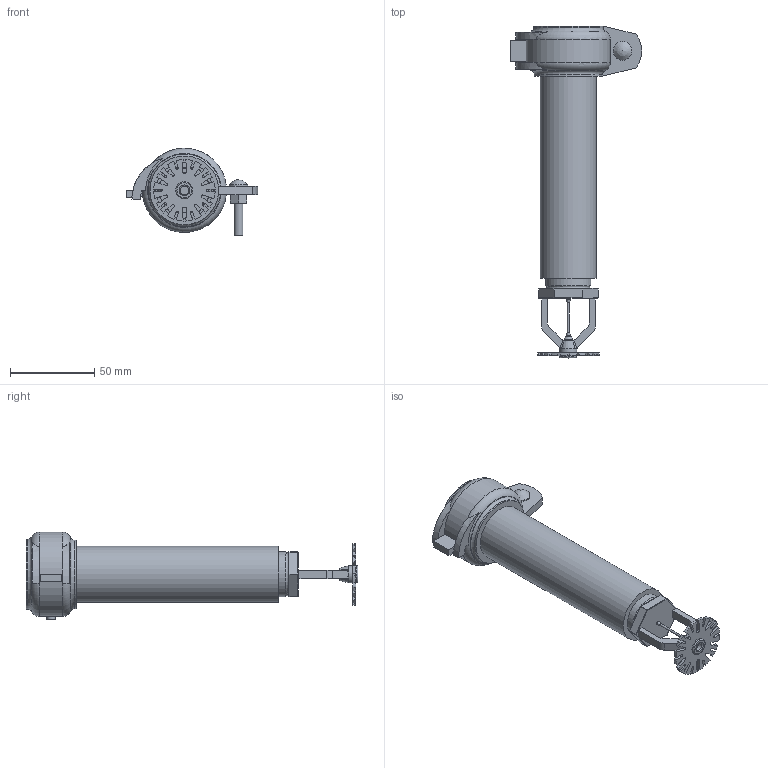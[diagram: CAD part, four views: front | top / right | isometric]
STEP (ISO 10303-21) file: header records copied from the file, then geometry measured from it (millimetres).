
FILE_DESCRIPTION(/* description */ ('VIC SPRINKLER V3613 K5.6 DRY PENDENT STANDARD RESPONSE w/V9 (IGS)'),/* implementation_level */ '2;1');
FILE_NAME(/* name */ 'C:\Users\Public\Documents\Victaulic.Temp\A161\Victaulic_FP-Sprinkler_V3613_DRY_SR_Pendent_V9 (IGS)_PLN_1 (25).stp',/* time_stamp */ '2024-09-24T08:10:33+02:00',/* author */ ('kkamble'),/* organization */ ('Victaulic'),/* preprocessor_version */ 'ST-DEVELOPER v18',/* originating_system */ 'Autodesk Inventor 2020',/* authorisation */ '');
FILE_SCHEMA (('AUTOMOTIVE_DESIGN { 1 0 10303 214 3 1 1 }'));
Length unit declared in the file: inch
Products named in the file (3): V3613_Plain-01.0; V3613_Plain Barrel; V9-01.0x01.0
Assembly tree (2 placements, depth 2):
  V3613_Plain-01.0
    V3613_Plain Barrel
    V9-01.0x01.0
Bounding box: 78.09 x 197.04 x 52.01 mm (x, y, z)
Volume: 71244.7 mm3; surface area: 48294.4 mm2
Topology: 2 solids, 2 shells, 290 faces, 797 edges, 520 vertices
Faces by surface type: plane 141, cylinder 106, sphere 12, torus 11, bspline 11, cone 9
Full cylindrical faces by diameter (mm): 1.27 x1, 5.08 x3, 6.35 x1, 10.16 x2, 11.112 x1, 20.93 x1, 26.645 x2, 26.67 x1, 30.861 x1, 33.401 x4, 36.703 x1, 37.465 x1, 45.974 x2
Entity records: 10129 total; most frequent: CARTESIAN_POINT 2145, DIRECTION 1638, ORIENTED_EDGE 1582, EDGE_CURVE 791, AXIS2_PLACEMENT_3D 604, VERTEX_POINT 520, LINE 430, VECTOR 430
